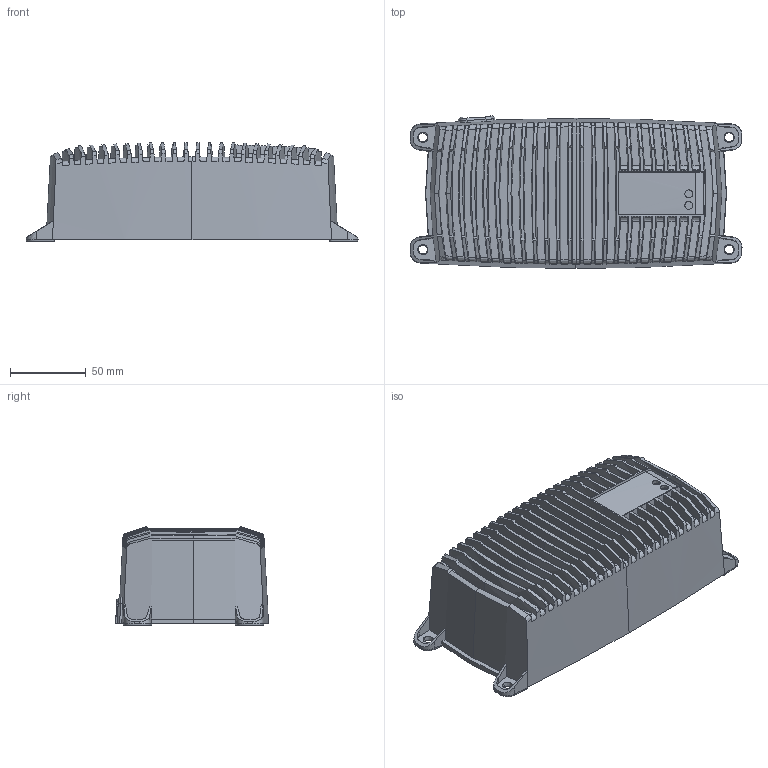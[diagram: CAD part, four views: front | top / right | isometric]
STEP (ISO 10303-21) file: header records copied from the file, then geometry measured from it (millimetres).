
FILE_DESCRIPTION (( 'STEP AP214' ), '1' );
FILE_NAME ('Big IP67.STEP', '2017-11-08T09:04:07', ( '' ), ( '' ), 'SwSTEP 2.0', 'SolidWorks 2017', '' );
FILE_SCHEMA (( 'AUTOMOTIVE_DESIGN' ));
Length unit declared in the file: millimetre
Products named in the file (3): 1038011450-Cover pLate Alu120613104 BPC IP67; 1032010849-Aluminium Housing BPC IP67 Rev C; Big IP67
Assembly tree (2 placements, depth 2):
  Big IP67
    1032010849-Aluminium Housing BPC IP67 Rev C
    1038011450-Cover pLate Alu120613104 BPC IP67
Bounding box: 219 x 100.91 x 65.29 mm (x, y, z)
Volume: 191655.2 mm3; surface area: 158321.1 mm2
Topology: 2 solids, 2 shells, 857 faces, 2324 edges, 1474 vertices
Faces by surface type: bspline 515, cylinder 128, plane 124, cone 90
Entity records: 52495 total; most frequent: CARTESIAN_POINT 32008, ORIENTED_EDGE 4640, EDGE_CURVE 2320, B_SPLINE_CURVE_WITH_KNOTS 1582, DIRECTION 1553, VERTEX_POINT 1474, EDGE_LOOP 888, ADVANCED_FACE 857
